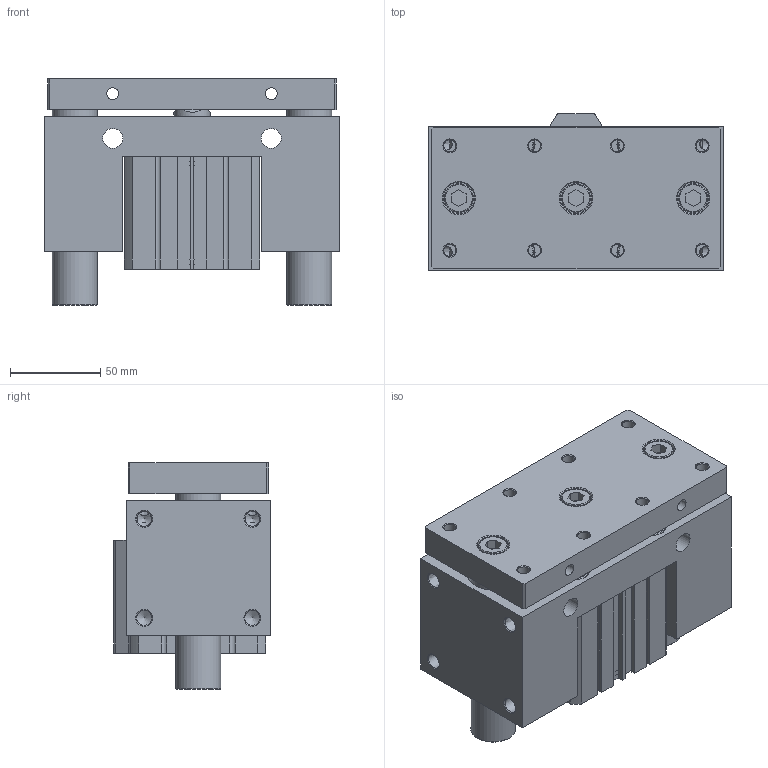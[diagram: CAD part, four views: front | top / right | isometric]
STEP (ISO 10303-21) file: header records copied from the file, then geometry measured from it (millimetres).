
FILE_DESCRIPTION((''),'2;1');
FILE_NAME('I:\3D電子目錄\氣缸\JCB\JCB\JCB63\JCB63x30.stp','2007-09-01T15:17:20',('Administrator'),(''),'Autodesk Inventor 11','Autodesk Inventor 11','');
FILE_SCHEMA(('AUTOMOTIVE_DESIGN { 1 0 10303 214 1 1 1 1 }'));
Length unit declared in the file: millimetre
Products named in the file (1): JCB63
Bounding box: 164 x 87 x 125.5 mm (x, y, z)
Volume: 1166168.7 mm3; surface area: 190301.4 mm2
Topology: 3 solids, 5 shells, 343 faces, 829 edges, 538 vertices
Faces by surface type: plane 186, cylinder 62, cone 47, bspline 40, torus 8
Full cylindrical faces by diameter (mm): 3 x2, 6.8 x4, 8.376 x4, 11 x8, 13 x4, 14 x4, 16 x3, 17.5 x3, 20 x1, 21 x1, 25 x2, 28 x2, 40 x1, 47 x1, 65 x4, 68 x2
Entity records: 10008 total; most frequent: CARTESIAN_POINT 2670, DIRECTION 1474, ORIENTED_EDGE 1320, EDGE_CURVE 660, EDGE_LOOP 554, AXIS2_PLACEMENT_3D 532, VERTEX_POINT 498, VECTOR 410
